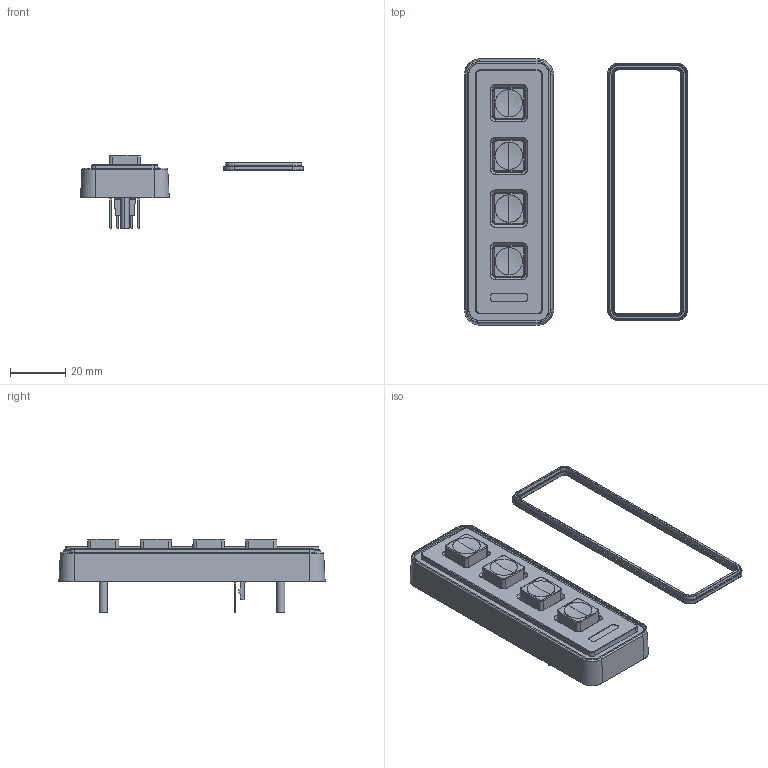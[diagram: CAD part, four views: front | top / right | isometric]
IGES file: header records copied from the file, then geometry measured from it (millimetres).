
Start section: SolidWorks IGES file using analytic representation for surfaces
Global section: file name: C:\Users\rayc\Desktop\720 SERIES 4 KEY ASSEMBLY.IGS; native system: SolidWorks 2013; preprocessor: SolidWorks 2013; author: rayc; date: 131004.105001; units: millimetre
Bounding box: 80.4 x 96 x 26.46 mm (x, y, z)
Surface area: 17177.8 mm2 (no closed solid volume)
Topology: 0 solids, 0 shells, 557 faces, 5408 edges, 5404 vertices
Faces by surface type: bspline 344, revolution 213
